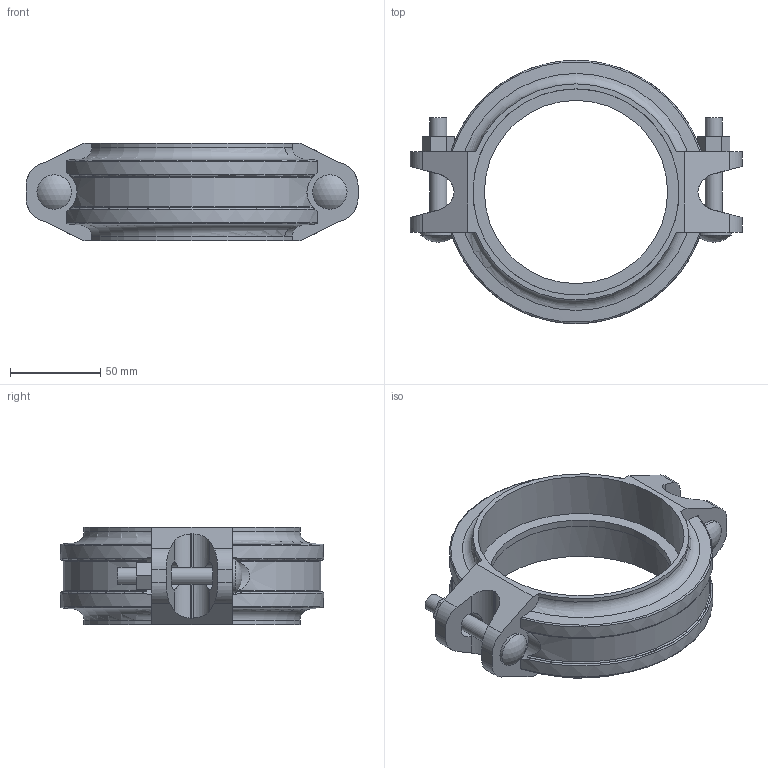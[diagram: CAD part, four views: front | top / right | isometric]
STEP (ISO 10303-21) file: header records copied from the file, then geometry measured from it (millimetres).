
FILE_DESCRIPTION(/* description */ ('VIC STYLE 005H FIRELOCK RIGID COUPLING','CAx-IF Rec.Pracs.---Representation and Presentation of Product Manufacturing Information (PMI)---4.0---2014-10-13'),/* implementation_level */ '2;1');
FILE_NAME(/* name */ 'C:\Users\Vjadhav\Desktop\CAD for Inventor\1\Coupling bolt thickness\005H\STEP\Victaulic_FP-FireLock_Coupling Rigid_Style 005H (OGS)\Victaulic_FP-FireLock_Coupling Rigid_Style 005H (OGS)_4 (100).stp',/* time_stamp */ '2022-03-28T11:24:56+06:00',/* author */ ('jheald'),/* organization */ ('Victaulic'),/* preprocessor_version */ 'ST-DEVELOPER v17.2',/* originating_system */ 'Autodesk Inventor 2019',/* authorisation */ '');
FILE_SCHEMA (('AP242_MANAGED_MODEL_BASED_3D_ENGINEERING_MIM_LF { 1 0 10303 442 1 1 4 }'));
Length unit declared in the file: inch
Products named in the file (1): 005H-04.0
Bounding box: 184.15 x 146.05 x 54.1 mm (x, y, z)
Volume: 301788.8 mm3; surface area: 70876.5 mm2
Topology: 1 solids, 1 shells, 121 faces, 357 edges, 242 vertices
Faces by surface type: plane 56, cylinder 43, torus 16, cone 4, sphere 2
Full cylindrical faces by diameter (mm): 9.525 x4, 19.05 x2, 101.6 x1, 114.3 x2
Entity records: 4948 total; most frequent: CARTESIAN_POINT 1438, ORIENTED_EDGE 714, DIRECTION 685, EDGE_CURVE 357, AXIS2_PLACEMENT_3D 253, VERTEX_POINT 242, LINE 179, VECTOR 179
